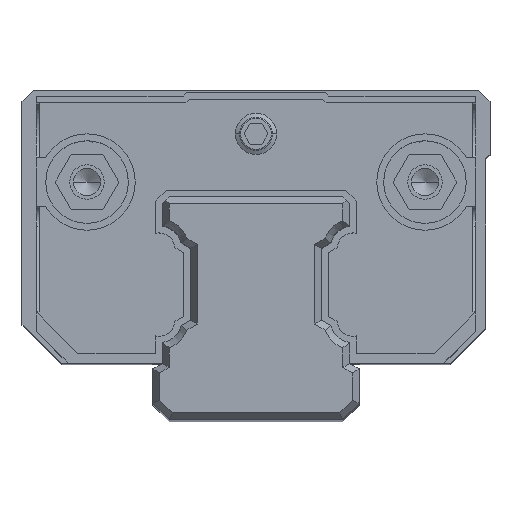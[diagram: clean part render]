
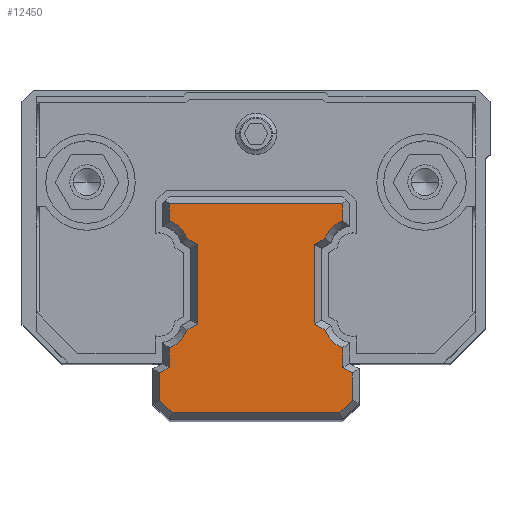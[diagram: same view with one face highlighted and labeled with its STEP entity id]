
A CAD part, top view. The second image highlights one B-rep face of the part: STEP entity #12450.
In plain terms, the highlighted planar face has unit normal (0, 0, 1).
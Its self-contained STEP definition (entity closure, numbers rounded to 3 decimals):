
#11764=DIRECTION('',(-1.,0.,0.));
#11765=VECTOR('',#11764,12.6);
#11766=CARTESIAN_POINT('',(6.3,5.85,44.1));
#11767=LINE('',#11766,#11765);
#11768=DIRECTION('',(0.,1.,0.));
#11769=VECTOR('',#11768,1.23);
#11770=CARTESIAN_POINT('',(6.3,4.62,44.1));
#11771=LINE('',#11770,#11769);
#11772=DIRECTION('',(0.866,0.5,0.));
#11773=VECTOR('',#11772,0.894);
#11774=CARTESIAN_POINT('',(4.25,2.889,44.1));
#11775=LINE('',#11774,#11773);
#11776=DIRECTION('',(0.,1.,0.));
#11777=VECTOR('',#11776,5.777);
#11778=CARTESIAN_POINT('',(4.25,-2.889,44.1));
#11779=LINE('',#11778,#11777);
#11780=DIRECTION('',(-0.866,0.5,0.));
#11781=VECTOR('',#11780,0.894);
#11782=CARTESIAN_POINT('',(5.024,-3.336,
44.1));
#11783=LINE('',#11782,#11781);
#11784=DIRECTION('',(0.,1.,0.));
#11785=VECTOR('',#11784,1.418);
#11786=CARTESIAN_POINT('',(6.3,-6.039,44.1));
#11787=LINE('',#11786,#11785);
#11788=DIRECTION('',(-0.866,0.5,0.));
#11789=VECTOR('',#11788,0.808);
#11790=CARTESIAN_POINT('',(7.,-6.443,44.1));
#11791=LINE('',#11790,#11789);
#11792=DIRECTION('',(0.,1.,0.));
#11793=VECTOR('',#11792,2.);
#11794=CARTESIAN_POINT('',(7.,-8.443,44.1));
#11795=LINE('',#11794,#11793);
#11796=DIRECTION('',(0.707,0.707,0.));
#11797=VECTOR('',#11796,1.283);
#11798=CARTESIAN_POINT('',(6.093,-9.35,44.1));
#11799=LINE('',#11798,#11797);
#11800=DIRECTION('',(1.,0.,0.));
#11801=VECTOR('',#11800,12.186);
#11802=CARTESIAN_POINT('',(-6.093,-9.35,44.1));
#11803=LINE('',#11802,#11801);
#11804=DIRECTION('',(0.707,-0.707,0.));
#11805=VECTOR('',#11804,1.283);
#11806=CARTESIAN_POINT('',(-7.,-8.443,44.1));
#11807=LINE('',#11806,#11805);
#11808=DIRECTION('',(0.,-1.,0.));
#11809=VECTOR('',#11808,2.);
#11810=CARTESIAN_POINT('',(-7.,-6.443,44.1));
#11811=LINE('',#11810,#11809);
#11812=DIRECTION('',(-0.866,-0.5,0.));
#11813=VECTOR('',#11812,0.808);
#11814=CARTESIAN_POINT('',(-6.3,-6.039,44.1));
#11815=LINE('',#11814,#11813);
#11816=DIRECTION('',(0.,-1.,0.));
#11817=VECTOR('',#11816,1.418);
#11818=CARTESIAN_POINT('',(-6.3,-4.62,
44.1));
#11819=LINE('',#11818,#11817);
#11820=DIRECTION('',(-0.866,-0.5,0.));
#11821=VECTOR('',#11820,0.894);
#11822=CARTESIAN_POINT('',(-4.25,-2.889,44.1));
#11823=LINE('',#11822,#11821);
#11824=DIRECTION('',(0.,-1.,0.));
#11825=VECTOR('',#11824,5.777);
#11826=CARTESIAN_POINT('',(-4.25,2.889,44.1));
#11827=LINE('',#11826,#11825);
#11828=DIRECTION('',(0.866,-0.5,0.));
#11829=VECTOR('',#11828,0.894);
#11830=CARTESIAN_POINT('',(-5.024,3.336,
44.1));
#11831=LINE('',#11830,#11829);
#11832=DIRECTION('',(0.,-1.,0.));
#11833=VECTOR('',#11832,1.23);
#11834=CARTESIAN_POINT('',(-6.3,5.85,44.1));
#11835=LINE('',#11834,#11833);
#11863=CARTESIAN_POINT('',(-7.046,2.604,44.1));
#11864=DIRECTION('',(0.,0.,-1.));
#11865=DIRECTION('',(0.347,0.938,0.));
#11866=AXIS2_PLACEMENT_3D('',#11863,#11864,#11865);
#11923=CARTESIAN_POINT('',(-7.046,-2.604,44.1));
#11924=DIRECTION('',(0.,0.,-1.));
#11925=DIRECTION('',(0.94,-0.34,0.));
#11926=AXIS2_PLACEMENT_3D('',#11923,#11924,#11925);
#12055=CARTESIAN_POINT('',(7.046,-2.604,44.1));
#12056=DIRECTION('',(0.,0.,-1.));
#12057=DIRECTION('',(-0.347,-0.938,0.));
#12058=AXIS2_PLACEMENT_3D('',#12055,#12056,#12057);
#12120=CARTESIAN_POINT('',(7.046,2.604,44.1));
#12121=DIRECTION('',(0.,0.,-1.));
#12122=DIRECTION('',(-0.94,0.34,0.));
#12123=AXIS2_PLACEMENT_3D('',#12120,#12121,#12122);
#12212=CARTESIAN_POINT('',(6.3,5.85,44.1));
#12213=CARTESIAN_POINT('',(-6.3,5.85,44.1));
#12214=VERTEX_POINT('',#12212);
#12215=VERTEX_POINT('',#12213);
#12220=CARTESIAN_POINT('',(6.3,4.62,44.1));
#12221=VERTEX_POINT('',#12220);
#12226=CARTESIAN_POINT('',(4.25,2.889,44.1));
#12227=CARTESIAN_POINT('',(5.024,3.336,44.1));
#12228=VERTEX_POINT('',#12226);
#12229=VERTEX_POINT('',#12227);
#12232=CARTESIAN_POINT('',(4.25,-2.889,44.1));
#12233=VERTEX_POINT('',#12232);
#12234=CARTESIAN_POINT('',(5.024,-3.336,
44.1));
#12235=VERTEX_POINT('',#12234);
#12242=CARTESIAN_POINT('',(6.3,-6.039,44.1));
#12243=CARTESIAN_POINT('',(6.3,-4.62,
44.1));
#12244=VERTEX_POINT('',#12242);
#12245=VERTEX_POINT('',#12243);
#12248=CARTESIAN_POINT('',(7.,-6.443,44.1));
#12249=VERTEX_POINT('',#12248);
#12252=CARTESIAN_POINT('',(7.,-8.443,44.1));
#12253=VERTEX_POINT('',#12252);
#12256=CARTESIAN_POINT('',(6.093,-9.35,44.1));
#12257=VERTEX_POINT('',#12256);
#12260=CARTESIAN_POINT('',(-6.093,-9.35,44.1));
#12261=VERTEX_POINT('',#12260);
#12264=CARTESIAN_POINT('',(-7.,-8.443,44.1));
#12265=VERTEX_POINT('',#12264);
#12268=CARTESIAN_POINT('',(-7.,-6.443,44.1));
#12269=VERTEX_POINT('',#12268);
#12272=CARTESIAN_POINT('',(-6.3,-6.039,44.1));
#12273=VERTEX_POINT('',#12272);
#12276=CARTESIAN_POINT('',(-6.3,-4.62,
44.1));
#12277=VERTEX_POINT('',#12276);
#12282=CARTESIAN_POINT('',(-4.25,-2.889,44.1));
#12283=CARTESIAN_POINT('',(-5.024,-3.336,
44.1));
#12284=VERTEX_POINT('',#12282);
#12285=VERTEX_POINT('',#12283);
#12288=CARTESIAN_POINT('',(-4.25,2.889,44.1));
#12289=VERTEX_POINT('',#12288);
#12292=CARTESIAN_POINT('',(-5.024,3.336,
44.1));
#12293=VERTEX_POINT('',#12292);
#12296=CARTESIAN_POINT('',(-6.3,4.62,
44.1));
#12297=VERTEX_POINT('',#12296);
#12401=CARTESIAN_POINT('',(0.,0.,44.1));
#12402=DIRECTION('',(0.,0.,1.));
#12403=DIRECTION('',(1.,0.,0.));
#12404=AXIS2_PLACEMENT_3D('',#12401,#12402,#12403);
#12405=PLANE('',#12404);
#12407=ORIENTED_EDGE('',*,*,#12406,.F.);
#12409=ORIENTED_EDGE('',*,*,#12408,.F.);
#12411=ORIENTED_EDGE('',*,*,#12410,.F.);
#12413=ORIENTED_EDGE('',*,*,#12412,.F.);
#12414=ORIENTED_EDGE('',*,*,#12379,.F.);
#12415=ORIENTED_EDGE('',*,*,#12391,.F.);
#12417=ORIENTED_EDGE('',*,*,#12416,.F.);
#12419=ORIENTED_EDGE('',*,*,#12418,.F.);
#12421=ORIENTED_EDGE('',*,*,#12420,.F.);
#12423=ORIENTED_EDGE('',*,*,#12422,.F.);
#12425=ORIENTED_EDGE('',*,*,#12424,.F.);
#12427=ORIENTED_EDGE('',*,*,#12426,.F.);
#12429=ORIENTED_EDGE('',*,*,#12428,.F.);
#12431=ORIENTED_EDGE('',*,*,#12430,.F.);
#12433=ORIENTED_EDGE('',*,*,#12432,.F.);
#12435=ORIENTED_EDGE('',*,*,#12434,.F.);
#12437=ORIENTED_EDGE('',*,*,#12436,.F.);
#12439=ORIENTED_EDGE('',*,*,#12438,.F.);
#12441=ORIENTED_EDGE('',*,*,#12440,.F.);
#12443=ORIENTED_EDGE('',*,*,#12442,.F.);
#12445=ORIENTED_EDGE('',*,*,#12444,.F.);
#12447=ORIENTED_EDGE('',*,*,#12446,.F.);
#12448=EDGE_LOOP('',(#12407,#12409,#12411,#12413,#12414,#12415,#12417,#12419,
#12421,#12423,#12425,#12427,#12429,#12431,#12433,#12435,#12437,#12439,#12441,
#12443,#12445,#12447));
#12449=FACE_OUTER_BOUND('',#12448,.F.);
#11867=CIRCLE('',#11866,2.15);
#11927=CIRCLE('',#11926,2.15);
#12059=CIRCLE('',#12058,2.15);
#12124=CIRCLE('',#12123,2.15);
#12379=EDGE_CURVE('',#12233,#12228,#11779,.T.);
#12391=EDGE_CURVE('',#12235,#12233,#11783,.T.);
#12406=EDGE_CURVE('',#12214,#12215,#11767,.T.);
#12408=EDGE_CURVE('',#12221,#12214,#11771,.T.);
#12410=EDGE_CURVE('',#12229,#12221,#12124,.T.);
#12412=EDGE_CURVE('',#12228,#12229,#11775,.T.);
#12416=EDGE_CURVE('',#12245,#12235,#12059,.T.);
#12418=EDGE_CURVE('',#12244,#12245,#11787,.T.);
#12420=EDGE_CURVE('',#12249,#12244,#11791,.T.);
#12422=EDGE_CURVE('',#12253,#12249,#11795,.T.);
#12424=EDGE_CURVE('',#12257,#12253,#11799,.T.);
#12426=EDGE_CURVE('',#12261,#12257,#11803,.T.);
#12428=EDGE_CURVE('',#12265,#12261,#11807,.T.);
#12430=EDGE_CURVE('',#12269,#12265,#11811,.T.);
#12432=EDGE_CURVE('',#12273,#12269,#11815,.T.);
#12434=EDGE_CURVE('',#12277,#12273,#11819,.T.);
#12436=EDGE_CURVE('',#12285,#12277,#11927,.T.);
#12438=EDGE_CURVE('',#12284,#12285,#11823,.T.);
#12440=EDGE_CURVE('',#12289,#12284,#11827,.T.);
#12442=EDGE_CURVE('',#12293,#12289,#11831,.T.);
#12444=EDGE_CURVE('',#12297,#12293,#11867,.T.);
#12446=EDGE_CURVE('',#12215,#12297,#11835,.T.);
#12450=ADVANCED_FACE('',(#12449),#12405,.T.);
